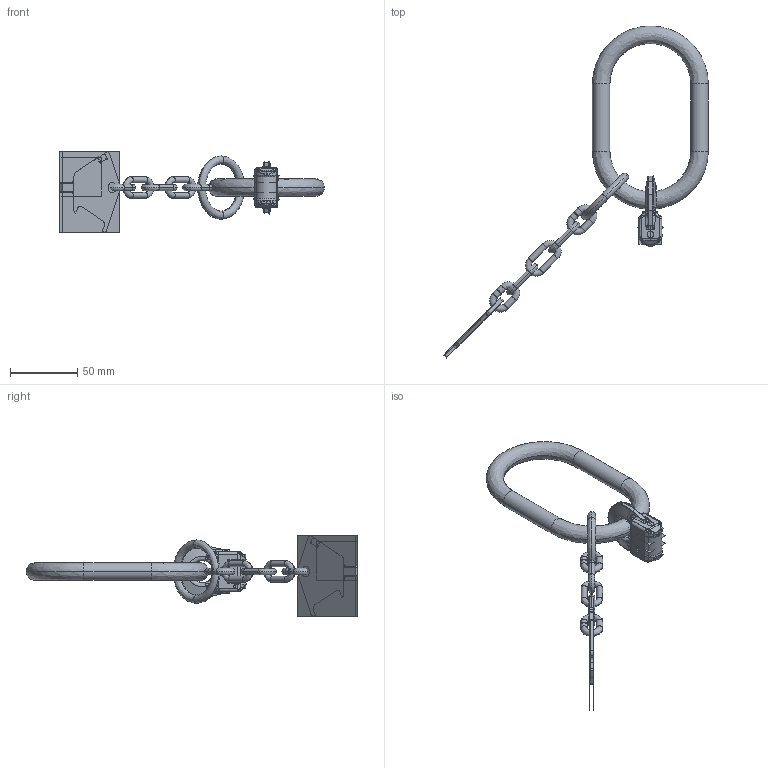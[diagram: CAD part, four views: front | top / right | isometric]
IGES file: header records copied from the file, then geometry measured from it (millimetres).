
Start section:  PTC IGES file: VAK-1-6_7100681_M34474-P-1.igs
Global section: file name: VAK-1-6_7100681_M34474-P-1.igs; native system: Pro/ENGINEER by Parametric Technology Corporation; preprocessor: 2010140; author: Andreas.Wendler; organization: Unknown; date: 20141013.150524; units: millimetre
Bounding box: 196.44 x 246.44 x 59.55 mm (x, y, z)
Volume: 70400.9 mm3; surface area: 136911.4 mm2
Topology: 9 solids, 10 shells, 960 faces, 4816 edges, 5981 vertices
Faces by surface type: bspline 614, revolution 346
